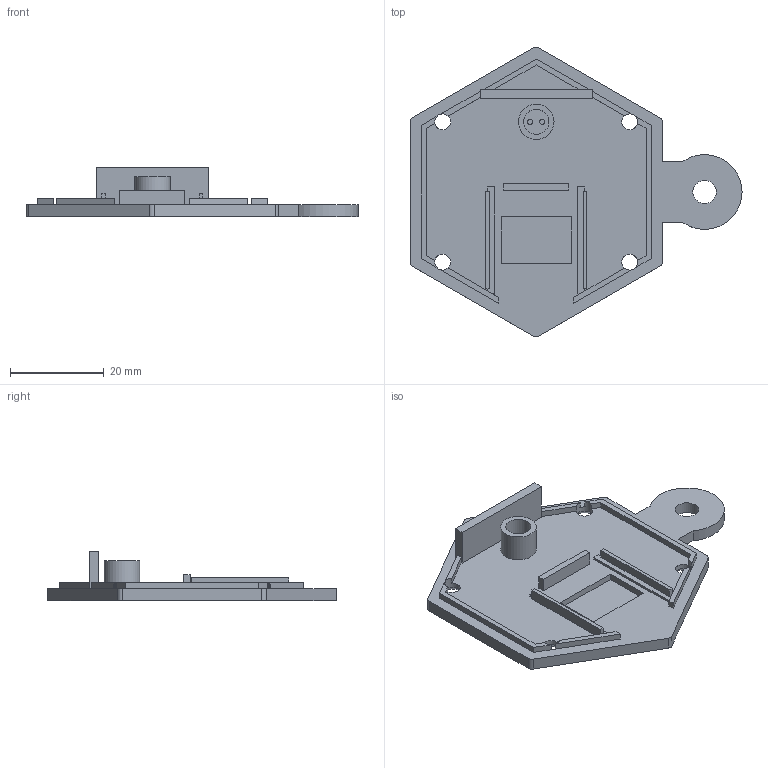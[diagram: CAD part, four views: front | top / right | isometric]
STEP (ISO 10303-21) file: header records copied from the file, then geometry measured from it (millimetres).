
FILE_DESCRIPTION(('Open CASCADE Model'),'2;1');
FILE_NAME('Open CASCADE Shape Model','2026-09-17T20:09:27',('Author'),( 'Open CASCADE'),'Open CASCADE STEP processor 7.7','Open CASCADE 7.7' ,'Unknown');
FILE_SCHEMA(('AUTOMOTIVE_DESIGN { 1 0 10303 214 1 1 1 1 }'));
Length unit declared in the file: millimetre
Products named in the file (1): Open CASCADE STEP translator 7.7 2
Bounding box: 71 x 62.01 x 10.6 mm (x, y, z)
Volume: 7588.8 mm3; surface area: 7517.5 mm2
Topology: 1 solids, 1 shells, 116 faces, 323 edges, 214 vertices
Faces by surface type: plane 96, cylinder 16, cone 4
Full cylindrical faces by diameter (mm): 1.1 x2, 3.4 x4, 5 x1, 5.35 x1, 7.6 x1
Entity records: 7832 total; most frequent: CARTESIAN_POINT 1636, DIRECTION 1059, LINE 701, VECTOR 701, ORIENTED_EDGE 646, PCURVE 646, DEFINITIONAL_REPRESENTATION 646, EDGE_CURVE 323
